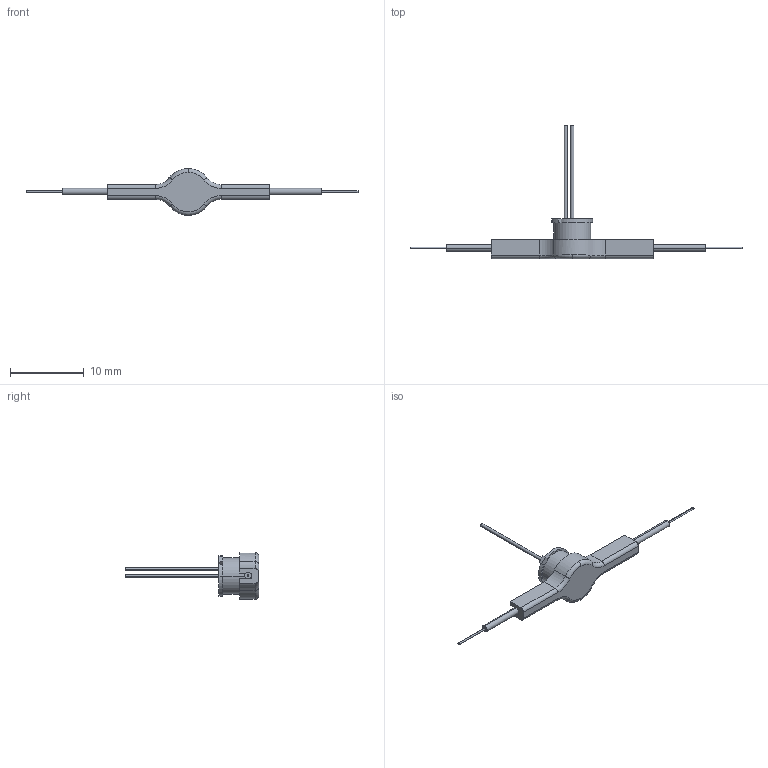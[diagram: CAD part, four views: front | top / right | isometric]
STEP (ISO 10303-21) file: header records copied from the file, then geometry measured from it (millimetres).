
FILE_DESCRIPTION (( 'STEP AP203' ), '1' );
FILE_NAME ('ILPM.STEP', '2026-05-13T21:58:07', ( '' ), ( '' ), 'SwSTEP 2.0', 'SolidWorks 2015', '' );
FILE_SCHEMA (( 'CONFIG_CONTROL_DESIGN' ));
Length unit declared in the file: millimetre
Products named in the file (4): Fiber laser grooved; PD 1.5mm core; ILPM case; ILPM
Assembly tree (3 placements, depth 2):
  ILPM
    ILPM case
    PD 1.5mm core
    Fiber laser grooved
Bounding box: 45 x 18.09 x 6.35 mm (x, y, z)
Volume: 213.8 mm3; surface area: 578.8 mm2
Topology: 3 solids, 3 shells, 67 faces, 155 edges, 100 vertices
Faces by surface type: cylinder 32, plane 26, torus 9
Entity records: 2344 total; most frequent: DIRECTION 382, CARTESIAN_POINT 328, ORIENTED_EDGE 310, EDGE_CURVE 155, AXIS2_PLACEMENT_3D 154, VERTEX_POINT 100, CIRCLE 81, VECTOR 74
